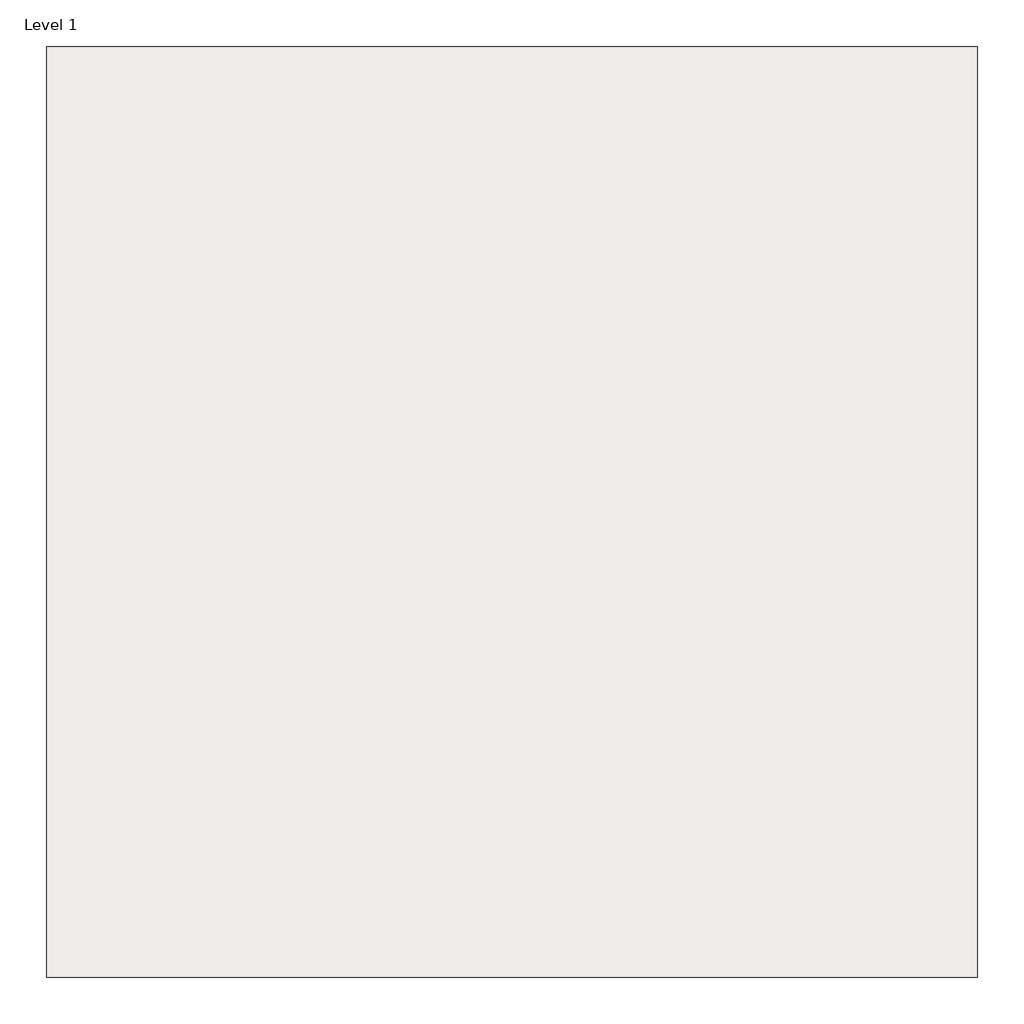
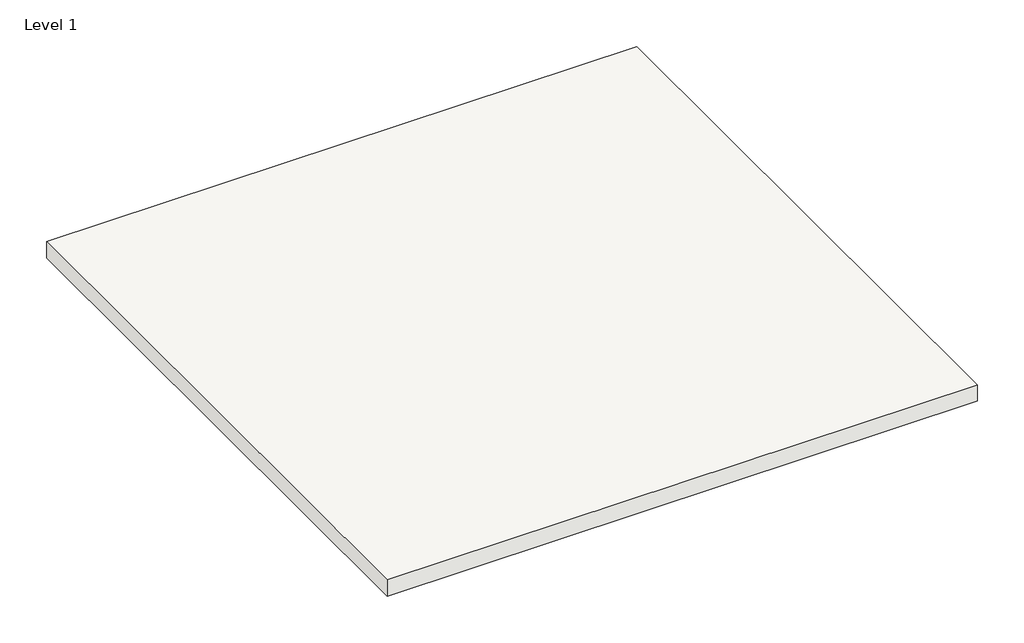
# One storey: 1 covering.
"""IFC4 building model written with IfcOpenShell, lengths in millimetres."""

from ifc_helpers import new_model, si_unit, origin, origin_with_axes, place, context, project, spatial, polyline, outline, extrude, element, save

model = new_model("IFC4")

# Units and contexts
model_context = context("Model", 3, world=origin())
ifc_project = project(units=[si_unit("LENGTHUNIT", "METRE", prefix="MILLI")], contexts=[model_context])

# Site, building, storey
site = spatial("IfcSite", under=ifc_project)
building = spatial("IfcBuilding", under=site)
storey = spatial("IfcBuildingStorey", under=building, Name="Level 1", Elevation=0.0)

# Covering
placement = place(None, origin())
element("IfcCovering", 1, ObjectType="RIGIPS - 4.05.72 (88-1)", at=placement, inside=storey, context=model_context, shape_type="SweptSolid", body=[
    extrude(outline(polyline([(-1500.0, 1500.0), (1500.0, 1500.0), (1500.0, -1500.0), (-1500.0, -1500.0), (-1500.0, 1500.0)])), origin_with_axes(), (0.0, 0.0, 1.0), 87.5),
])

save(model, "model.ifc")
